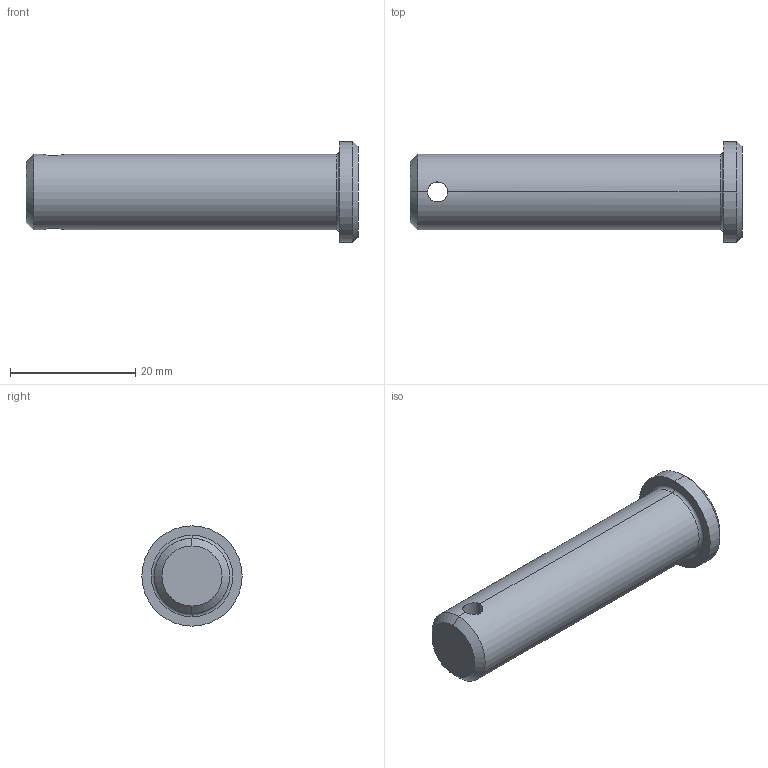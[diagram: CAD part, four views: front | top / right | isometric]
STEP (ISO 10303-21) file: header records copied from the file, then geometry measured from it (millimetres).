
FILE_DESCRIPTION (( 'STEP AP203' ), '1' );
FILE_NAME ('Wiberger-sms2360_12x50.step', '2012-10-09T08:57:40', ( 'Magnus' ), ( 'Wiberger' ), 'SwSTEP 2.0', 'SolidWorks 2011', '' );
FILE_SCHEMA (( 'CONFIG_CONTROL_DESIGN' ));
Length unit declared in the file: millimetre
Products named in the file (1): Wiberger-sms2360_12x50
Bounding box: 53 x 16 x 16 mm (x, y, z)
Volume: 6123.6 mm3; surface area: 2479.4 mm2
Topology: 1 solids, 1 shells, 15 faces, 32 edges, 18 vertices
Faces by surface type: cylinder 6, cone 4, plane 3, torus 2
Entity records: 579 total; most frequent: CARTESIAN_POINT 170, DIRECTION 76, ORIENTED_EDGE 64, EDGE_CURVE 32, AXIS2_PLACEMENT_3D 32, VERTEX_POINT 18, EDGE_LOOP 16, CIRCLE 16
